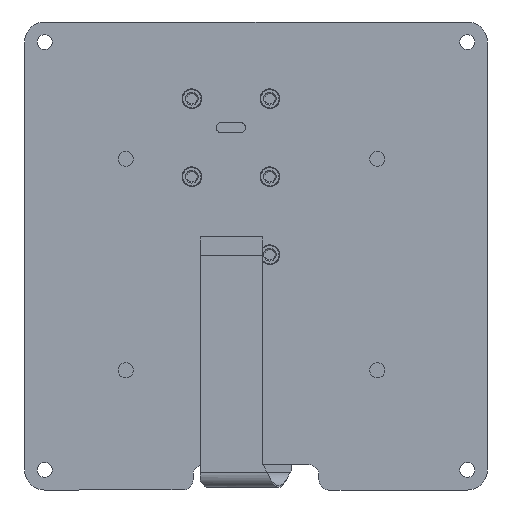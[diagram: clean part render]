
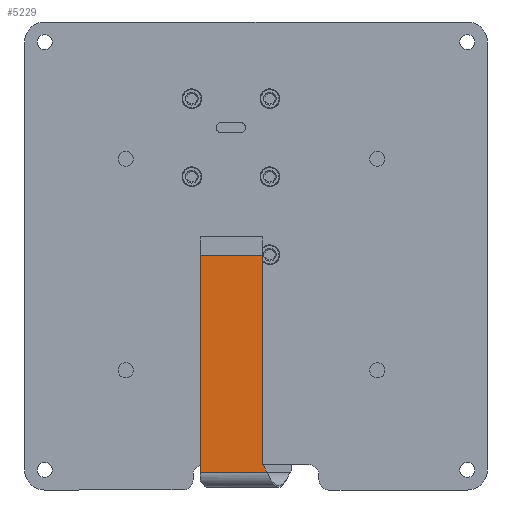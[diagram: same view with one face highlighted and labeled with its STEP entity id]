
A CAD part, front view. The second image highlights one B-rep face of the part: STEP entity #5229.
In plain terms, the highlighted planar face has unit normal (0, -1, 0).
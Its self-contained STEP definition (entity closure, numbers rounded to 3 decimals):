
#2280 = VECTOR ( 'NONE', #2750, 1000. ) ;
#2289 = LINE ( 'NONE', #2770, #2333 ) ;
#2290 = LINE ( 'NONE', #2763, #2313 ) ;
#2299 = VECTOR ( 'NONE', #2735, 1000. ) ;
#2313 = VECTOR ( 'NONE', #2774, 1000. ) ;
#2317 = VECTOR ( 'NONE', #2738, 1000. ) ;
#2321 = LINE ( 'NONE', #2754, #2280 ) ;
#2322 = LINE ( 'NONE', #2759, #2317 ) ;
#2333 = VECTOR ( 'NONE', #2776, 1000. ) ;
#2336 = LINE ( 'NONE', #2737, #2299 ) ;
#2735 = DIRECTION ( 'NONE',  ( 0.887, 0., 0.462 ) ) ;
#2737 = CARTESIAN_POINT ( 'NONE',  ( -52.49, -5.1, -7.15 ) ) ;
#2738 = DIRECTION ( 'NONE',  ( 1., 0., 0. ) ) ;
#2750 = DIRECTION ( 'NONE',  ( 0., 0., -1. ) ) ;
#2754 = CARTESIAN_POINT ( 'NONE',  ( 0.14, -5.1, -1.425 ) ) ;
#2759 = CARTESIAN_POINT ( 'NONE',  ( -41.49, -5.1, -1.425 ) ) ;
#2763 = CARTESIAN_POINT ( 'NONE',  ( -43.013, -5.1, 7.15 ) ) ;
#2770 = CARTESIAN_POINT ( 'NONE',  ( 3.74, -5.1, 11.075 ) ) ;
#2774 = DIRECTION ( 'NONE',  ( 0., 0., -1. ) ) ;
#2776 = DIRECTION ( 'NONE',  ( -1., 0., 0. ) ) ;
#5229 = ADVANCED_FACE ( 'NONE', ( #14405 ), #7123, .T. ) ;
#7123 = PLANE ( 'NONE',  #9262 ) ;
#7161 = DIRECTION ( 'NONE',  ( 0., 0., 1. ) ) ;
#7183 = CARTESIAN_POINT ( 'NONE',  ( -56.49, -5.1, 7.15 ) ) ;
#7224 = DIRECTION ( 'NONE',  ( 0., -1., 0. ) ) ;
#7841 = EDGE_CURVE ( 'NONE', #9498, #9486, #2321, .T. ) ;
#7843 = EDGE_CURVE ( 'NONE', #9498, #9389, #2289, .T. ) ;
#7845 = EDGE_CURVE ( 'NONE', #9389, #9422, #2290, .T. ) ;
#7851 = EDGE_CURVE ( 'NONE', #9422, #9434, #2336, .T. ) ;
#7857 = EDGE_CURVE ( 'NONE', #9434, #9486, #2322, .T. ) ;
#8779 = CARTESIAN_POINT ( 'NONE',  ( -43.013, -5.1, -2.218 ) ) ;
#8782 = CARTESIAN_POINT ( 'NONE',  ( -41.49, -5.1, -1.425 ) ) ;
#8822 = CARTESIAN_POINT ( 'NONE',  ( -43.013, -5.1, 11.075 ) ) ;
#8879 = CARTESIAN_POINT ( 'NONE',  ( 0.14, -5.1, -1.425 ) ) ;
#8888 = CARTESIAN_POINT ( 'NONE',  ( 0.14, -5.1, 11.075 ) ) ;
#9262 = AXIS2_PLACEMENT_3D ( 'NONE', #7183, #7224, #7161 ) ;
#9389 = VERTEX_POINT ( 'NONE', #8822 ) ;
#9422 = VERTEX_POINT ( 'NONE', #8779 ) ;
#9434 = VERTEX_POINT ( 'NONE', #8782 ) ;
#9486 = VERTEX_POINT ( 'NONE', #8879 ) ;
#9498 = VERTEX_POINT ( 'NONE', #8888 ) ;
#14405 = FACE_OUTER_BOUND ( 'NONE', #14869, .T. ) ;
#14869 = EDGE_LOOP ( 'NONE', ( #15484, #15540, #15482, #15504, #15519 ) ) ;
#15482 = ORIENTED_EDGE ( 'NONE', *, *, #7851, .T. ) ;
#15484 = ORIENTED_EDGE ( 'NONE', *, *, #7843, .T. ) ;
#15504 = ORIENTED_EDGE ( 'NONE', *, *, #7857, .T. ) ;
#15519 = ORIENTED_EDGE ( 'NONE', *, *, #7841, .F. ) ;
#15540 = ORIENTED_EDGE ( 'NONE', *, *, #7845, .T. ) ;
